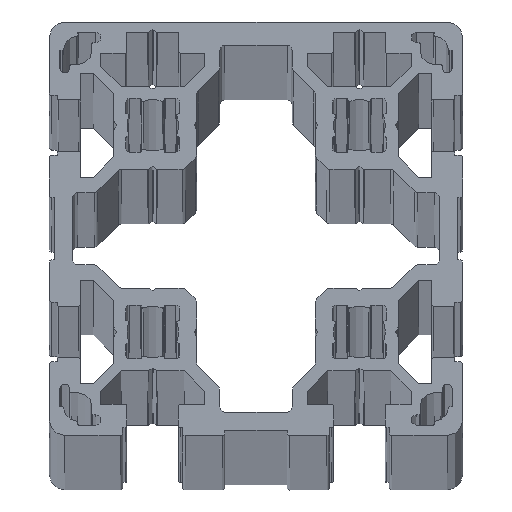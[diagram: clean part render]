
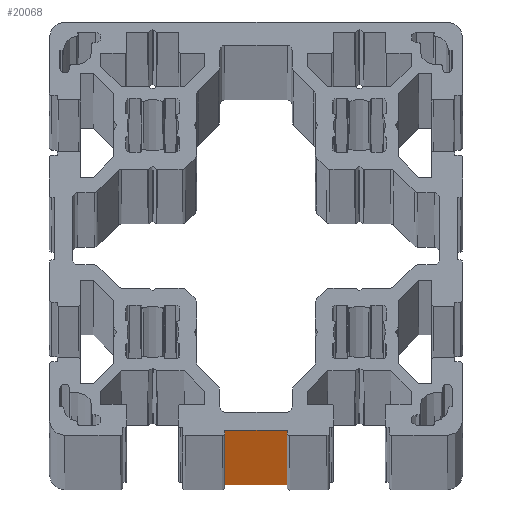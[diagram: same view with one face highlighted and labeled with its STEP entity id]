
A CAD part, top view. The second image highlights one B-rep face of the part: STEP entity #20068.
In plain terms, the highlighted planar face has unit normal (0, -1, 0).
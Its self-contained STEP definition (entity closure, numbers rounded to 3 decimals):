
#2079 = DIRECTION ( 'NONE',  ( 1., 0., 0. ) ) ;
#2153 = DIRECTION ( 'NONE',  ( 0., -1., 0. ) ) ;
#2233 = EDGE_CURVE ( 'NONE', #7210, #10345, #15250, .T. ) ;
#2840 = EDGE_CURVE ( 'NONE', #3459, #17454, #6692, .T. ) ;
#3459 = VERTEX_POINT ( 'NONE', #4499 ) ;
#3481 = AXIS2_PLACEMENT_3D ( 'NONE', #7083, #2153, #16383 ) ;
#3693 = EDGE_LOOP ( 'NONE', ( #13246, #13453, #20260, #19791 ) ) ;
#3767 = CARTESIAN_POINT ( 'NONE',  ( 6., -39., -6060. ) ) ;
#4499 = CARTESIAN_POINT ( 'NONE',  ( -6., -39., -6060. ) ) ;
#4575 = VECTOR ( 'NONE', #7044, 1000. ) ;
#4674 = DIRECTION ( 'NONE',  ( 1., 0., 0. ) ) ;
#6692 = LINE ( 'NONE', #11390, #7409 ) ;
#7044 = DIRECTION ( 'NONE',  ( 0., 0., 1. ) ) ;
#7083 = CARTESIAN_POINT ( 'NONE',  ( -6., -39., -6060. ) ) ;
#7210 = VERTEX_POINT ( 'NONE', #7602 ) ;
#7409 = VECTOR ( 'NONE', #2079, 1000. ) ;
#7602 = CARTESIAN_POINT ( 'NONE',  ( -6., -39., 0. ) ) ;
#9622 = EDGE_CURVE ( 'NONE', #17454, #10345, #17792, .T. ) ;
#9806 = CARTESIAN_POINT ( 'NONE',  ( -6., -39., -6060. ) ) ;
#10020 = DIRECTION ( 'NONE',  ( 0., 0., 1. ) ) ;
#10345 = VERTEX_POINT ( 'NONE', #18055 ) ;
#11328 = LINE ( 'NONE', #9806, #4575 ) ;
#11390 = CARTESIAN_POINT ( 'NONE',  ( -6., -39., -6060. ) ) ;
#12894 = PLANE ( 'NONE',  #3481 ) ;
#13246 = ORIENTED_EDGE ( 'NONE', *, *, #2233, .F. ) ;
#13453 = ORIENTED_EDGE ( 'NONE', *, *, #15379, .F. ) ;
#13593 = VECTOR ( 'NONE', #4674, 1000. ) ;
#13899 = VECTOR ( 'NONE', #10020, 1000. ) ;
#15250 = LINE ( 'NONE', #15621, #13593 ) ;
#15379 = EDGE_CURVE ( 'NONE', #3459, #7210, #11328, .T. ) ;
#15621 = CARTESIAN_POINT ( 'NONE',  ( -6., -39., 0. ) ) ;
#16383 = DIRECTION ( 'NONE',  ( 0., 0., -1. ) ) ;
#17347 = CARTESIAN_POINT ( 'NONE',  ( 6., -39., -6060. ) ) ;
#17454 = VERTEX_POINT ( 'NONE', #17347 ) ;
#17792 = LINE ( 'NONE', #3767, #13899 ) ;
#18055 = CARTESIAN_POINT ( 'NONE',  ( 6., -39., 0. ) ) ;
#19348 = FACE_OUTER_BOUND ( 'NONE', #3693, .T. ) ;
#19791 = ORIENTED_EDGE ( 'NONE', *, *, #9622, .T. ) ;
#20068 = ADVANCED_FACE ( 'NONE', ( #19348 ), #12894, .T. ) ;
#20260 = ORIENTED_EDGE ( 'NONE', *, *, #2840, .T. ) ;
